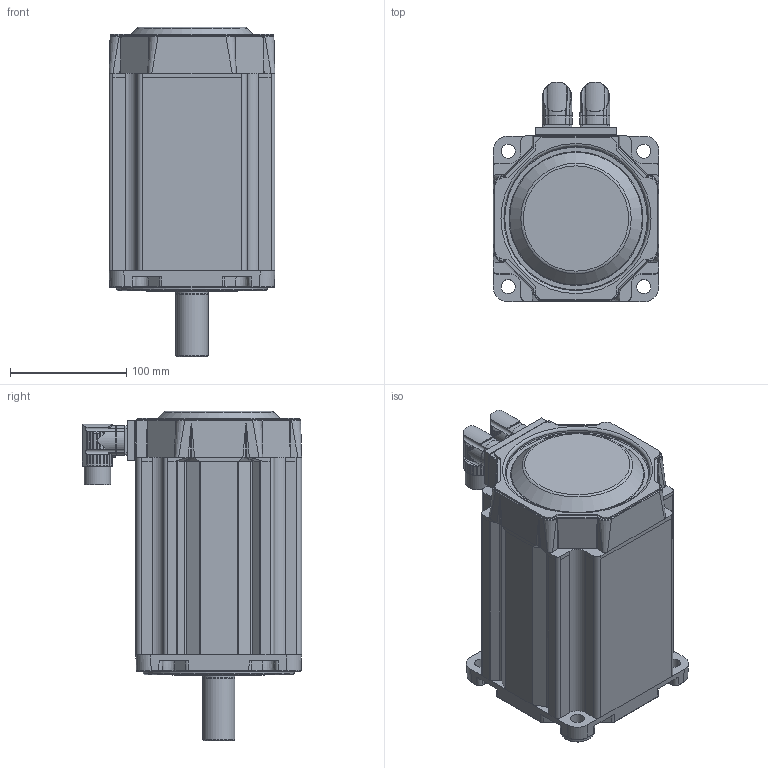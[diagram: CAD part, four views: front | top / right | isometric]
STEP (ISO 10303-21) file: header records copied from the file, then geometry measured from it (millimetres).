
FILE_DESCRIPTION((''),'2;1');
FILE_NAME('C:\Documents and Settings\jevans\My Documents\Engineering Projects\MPJ\MPJ1422XXX_NPSN.stp','2007-05-02T10:39:30',('jevans'),(''),'Autodesk Inventor 11','Autodesk Inventor 11','');
FILE_SCHEMA(('AUTOMOTIVE_DESIGN { 1 0 10303 214 1 1 1 1 }'));
Length unit declared in the file: inch
Products named in the file (4): MPP1424XXX_NPSN; MPP142_MOTOR_1; MPP142_MOTOR_2; MPP142_MOTOR_3
Assembly tree (3 placements, depth 2):
  MPP1424XXX_NPSN
    MPP142_MOTOR_1
    MPP142_MOTOR_2
    MPP142_MOTOR_3
Bounding box: 142.75 x 188.8 x 283.72 mm (x, y, z)
Volume: 3888627.7 mm3; surface area: 234149.9 mm2
Topology: 3 solids, 3 shells, 893 faces, 2261 edges, 1419 vertices
Faces by surface type: cylinder 401, plane 283, bspline 146, cone 39, torus 22, sphere 2
Full cylindrical faces by diameter (mm): 0.178 x1, 1.143 x17, 2.032 x6, 2.794 x2, 6.401 x8, 8.382 x1, 12.217 x4, 19.05 x2, 19.685 x2, 22.86 x2, 27.645 x1, 28.001 x1, 29.921 x1, 29.997 x1, 36.83 x1, 55.88 x1, 66.04 x1, 71.526 x1, 72.009 x1, 72.034 x2, 76.352 x1, 80.95 x1, 124.46 x1, 129.997 x1
Entity records: 34312 total; most frequent: CARTESIAN_POINT 13941, ORIENTED_EDGE 4310, DIRECTION 3967, EDGE_CURVE 2155, AXIS2_PLACEMENT_3D 1520, VERTEX_POINT 1398, EDGE_LOOP 1041, VECTOR 927
